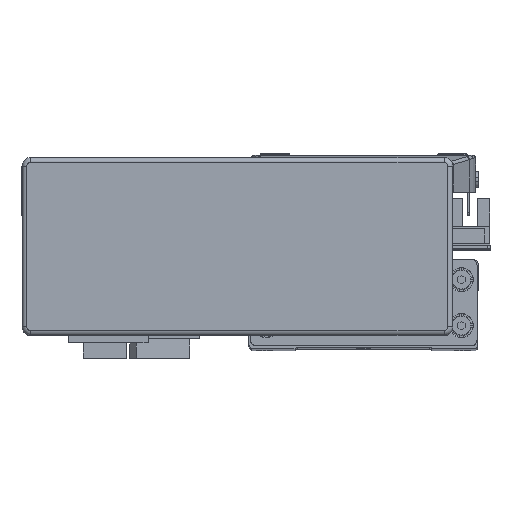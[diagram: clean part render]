
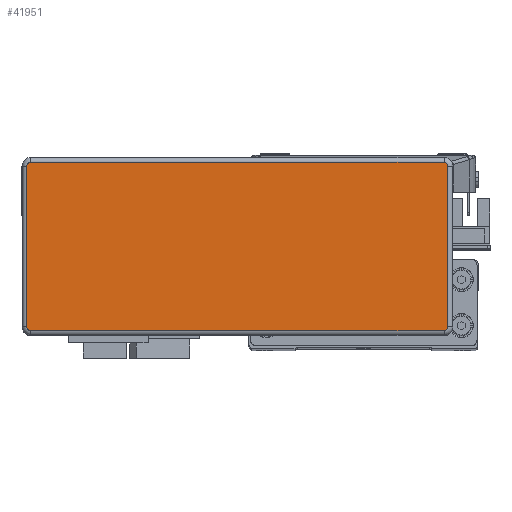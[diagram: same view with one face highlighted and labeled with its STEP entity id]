
A CAD part, top view. The second image highlights one B-rep face of the part: STEP entity #41951.
In plain terms, the highlighted planar face has unit normal (0, 0, 1) as drawn and (0, 0, -1) by its records, which use the part's own axes.
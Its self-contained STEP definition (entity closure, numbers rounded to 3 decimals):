
#1285 = VECTOR ( 'NONE', #6902, 1000. ) ;
#1293 = CIRCLE ( 'NONE', #30972, 1.3 ) ;
#1314 = LINE ( 'NONE', #6936, #1315 ) ;
#1315 = VECTOR ( 'NONE', #6922, 1000. ) ;
#1329 = LINE ( 'NONE', #6870, #1285 ) ;
#1344 = VECTOR ( 'NONE', #6933, 1000. ) ;
#1346 = LINE ( 'NONE', #7038, #1348 ) ;
#1348 = VECTOR ( 'NONE', #7090, 1000. ) ;
#1355 = LINE ( 'NONE', #6926, #1344 ) ;
#1369 = CIRCLE ( 'NONE', #30937, 1.3 ) ;
#1379 = CIRCLE ( 'NONE', #30952, 1.3 ) ;
#1408 = CIRCLE ( 'NONE', #31022, 1.3 ) ;
#3122 = EDGE_LOOP ( 'NONE', ( #43813, #43824, #43834, #43786, #43822, #43803, #43810, #43782 ) ) ;
#6870 = CARTESIAN_POINT ( 'NONE',  ( 71.995, -29.295, -32.2 ) ) ;
#6871 = CARTESIAN_POINT ( 'NONE',  ( -71.995, 27.995, -32.2 ) ) ;
#6885 = DIRECTION ( 'NONE',  ( 1., 0., 0. ) ) ;
#6901 = DIRECTION ( 'NONE',  ( 0., 0., -1. ) ) ;
#6902 = DIRECTION ( 'NONE',  ( -1., 0., 0. ) ) ;
#6922 = DIRECTION ( 'NONE',  ( 0., 1., 0. ) ) ;
#6926 = CARTESIAN_POINT ( 'NONE',  ( 71.995, 29.295, -32.2 ) ) ;
#6933 = DIRECTION ( 'NONE',  ( 1., 0., 0. ) ) ;
#6936 = CARTESIAN_POINT ( 'NONE',  ( -73.295, -27.995, -32.2 ) ) ;
#7002 = DIRECTION ( 'NONE',  ( 0., 0., -1. ) ) ;
#7011 = DIRECTION ( 'NONE',  ( 0., 0., -1. ) ) ;
#7023 = CARTESIAN_POINT ( 'NONE',  ( -71.995, -27.995, -32.2 ) ) ;
#7027 = DIRECTION ( 'NONE',  ( 1., 0., 0. ) ) ;
#7036 = CARTESIAN_POINT ( 'NONE',  ( 71.995, -27.995, -32.2 ) ) ;
#7038 = CARTESIAN_POINT ( 'NONE',  ( 73.295, -27.995, -32.2 ) ) ;
#7089 = DIRECTION ( 'NONE',  ( 1., 0., 0. ) ) ;
#7090 = DIRECTION ( 'NONE',  ( 0., -1., 0. ) ) ;
#7320 = DIRECTION ( 'NONE',  ( 0., 0., -1. ) ) ;
#7341 = DIRECTION ( 'NONE',  ( 1., 0., 0. ) ) ;
#7346 = CARTESIAN_POINT ( 'NONE',  ( 71.995, 27.995, -32.2 ) ) ;
#14778 = FACE_OUTER_BOUND ( 'NONE', #3122, .T. ) ;
#24762 = EDGE_CURVE ( 'NONE', #44008, #44046, #1329, .T. ) ;
#24766 = EDGE_CURVE ( 'NONE', #43984, #44020, #1293, .T. ) ;
#24776 = EDGE_CURVE ( 'NONE', #44047, #43984, #1314, .T. ) ;
#24787 = EDGE_CURVE ( 'NONE', #44020, #44066, #1355, .T. ) ;
#24809 = EDGE_CURVE ( 'NONE', #44046, #44047, #1379, .T. ) ;
#24824 = EDGE_CURVE ( 'NONE', #44097, #44008, #1369, .T. ) ;
#24828 = EDGE_CURVE ( 'NONE', #44043, #44097, #1346, .T. ) ;
#24862 = EDGE_CURVE ( 'NONE', #44066, #44043, #1408, .T. ) ;
#30937 = AXIS2_PLACEMENT_3D ( 'NONE', #7036, #7002, #7089 ) ;
#30952 = AXIS2_PLACEMENT_3D ( 'NONE', #7023, #7011, #7027 ) ;
#30972 = AXIS2_PLACEMENT_3D ( 'NONE', #6871, #6901, #6885 ) ;
#31022 = AXIS2_PLACEMENT_3D ( 'NONE', #7346, #7320, #7341 ) ;
#31680 = AXIS2_PLACEMENT_3D ( 'NONE', #35491, #35487, #35475 ) ;
#35438 = PLANE ( 'NONE',  #31680 ) ;
#35475 = DIRECTION ( 'NONE',  ( 1., 0., 0. ) ) ;
#35487 = DIRECTION ( 'NONE',  ( 0., 0., 1. ) ) ;
#35491 = CARTESIAN_POINT ( 'NONE',  ( 71.995, -27.995, -32.2 ) ) ;
#40683 = CARTESIAN_POINT ( 'NONE',  ( -71.995, -29.295, -32.2 ) ) ;
#40691 = CARTESIAN_POINT ( 'NONE',  ( -73.295, 27.995, -32.2 ) ) ;
#40731 = CARTESIAN_POINT ( 'NONE',  ( 73.295, 27.995, -32.2 ) ) ;
#40736 = CARTESIAN_POINT ( 'NONE',  ( 71.995, -29.295, -32.2 ) ) ;
#40737 = CARTESIAN_POINT ( 'NONE',  ( -71.995, 29.295, -32.2 ) ) ;
#40749 = CARTESIAN_POINT ( 'NONE',  ( -73.295, -27.995, -32.2 ) ) ;
#40760 = CARTESIAN_POINT ( 'NONE',  ( 73.295, -27.995, -32.2 ) ) ;
#40779 = CARTESIAN_POINT ( 'NONE',  ( 71.995, 29.295, -32.2 ) ) ;
#41951 = ADVANCED_FACE ( 'NONE', ( #14778 ), #35438, .F. ) ;
#43782 = ORIENTED_EDGE ( 'NONE', *, *, #24862, .T. ) ;
#43786 = ORIENTED_EDGE ( 'NONE', *, *, #24809, .T. ) ;
#43803 = ORIENTED_EDGE ( 'NONE', *, *, #24766, .T. ) ;
#43810 = ORIENTED_EDGE ( 'NONE', *, *, #24787, .T. ) ;
#43813 = ORIENTED_EDGE ( 'NONE', *, *, #24828, .T. ) ;
#43822 = ORIENTED_EDGE ( 'NONE', *, *, #24776, .T. ) ;
#43824 = ORIENTED_EDGE ( 'NONE', *, *, #24824, .T. ) ;
#43834 = ORIENTED_EDGE ( 'NONE', *, *, #24762, .T. ) ;
#43984 = VERTEX_POINT ( 'NONE', #40691 ) ;
#44008 = VERTEX_POINT ( 'NONE', #40736 ) ;
#44020 = VERTEX_POINT ( 'NONE', #40737 ) ;
#44043 = VERTEX_POINT ( 'NONE', #40731 ) ;
#44046 = VERTEX_POINT ( 'NONE', #40683 ) ;
#44047 = VERTEX_POINT ( 'NONE', #40749 ) ;
#44066 = VERTEX_POINT ( 'NONE', #40779 ) ;
#44097 = VERTEX_POINT ( 'NONE', #40760 ) ;
